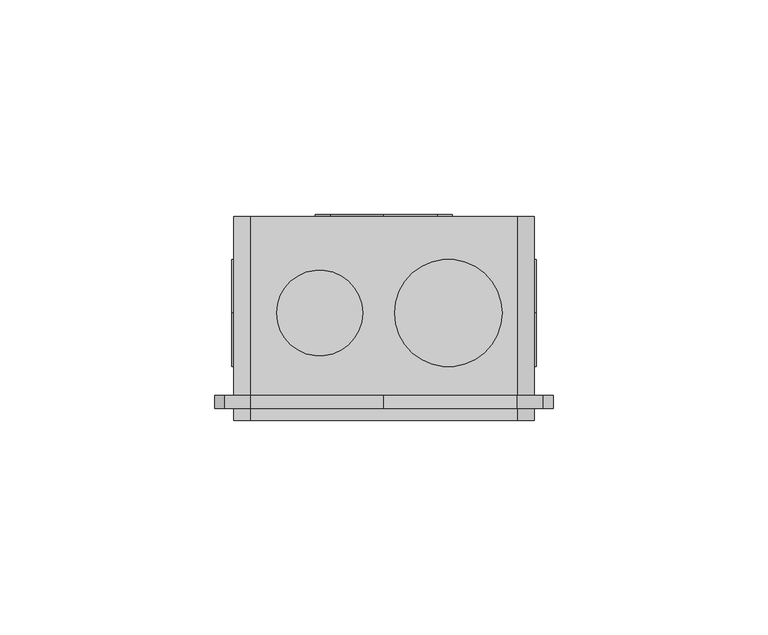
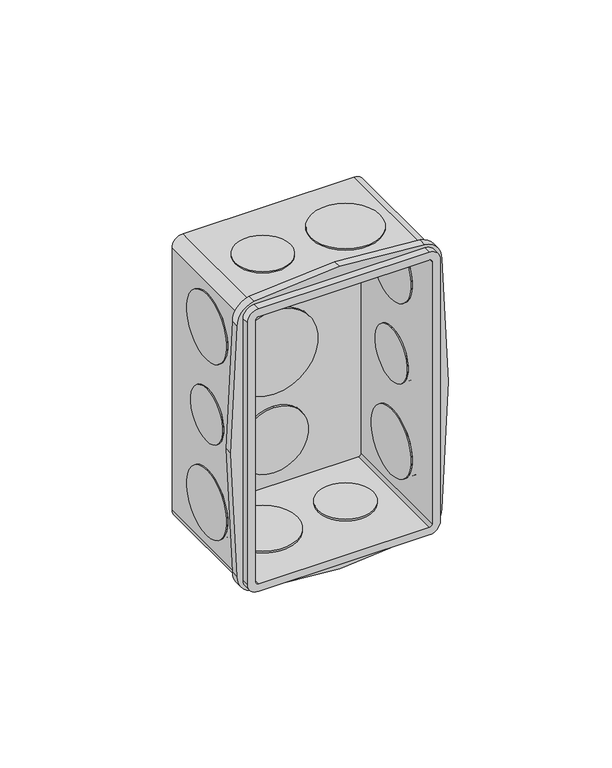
"""IFC4 building model written with IfcOpenShell, lengths in millimetres: cable carrier fitting geometry, PVC Corrugado Amarelo_Caixa de Luz 4x2 : PVC Corrugado Amarelo_Caixa de Luz 4x2."""

from ifc_helpers import new_model, si_unit, point, frame, frame_2d, origin, origin_2d, place, context, project, spatial, polyline, circle_curve, trimmed, segment, composite_curve, outline, extrude, source, transform, mapped, element, save
from ifc_brep_helpers import plane_surface, cylinder_surface, revolved_surface, advanced_brep


def cable_carrier_fitting_5224564e(model_context):
    return source(origin(), model_context, "Body", "SolidModel", [
        extrude(outline(composite_curve([segment(trimmed(circle_curve(frame_2d((33.7286647, 0.0)), 12.5), [point((46.2286647, 0.0))], [point((21.2286647, 0.0))], False, "CARTESIAN"), True, "CONTINUOUS"), segment(trimmed(circle_curve(frame_2d((33.7286647, 0.0)), 12.5), [point((21.2286647, 0.0))], [point((46.2286647, 0.0))], False, "CARTESIAN"), True, "CONTINUOUS")], self_intersect=False)), frame((0.0, 44.010852, 0.0), z_axis=(0.0, 1.0, 0.0), x_axis=(0.0, 0.0, 1.0)), (0.0, 0.0, 1.0), 3.957898),
        extrude(outline(composite_curve([segment(trimmed(circle_curve(frame_2d((-33.7286647, 0.0)), 12.5), [point((-46.2286647, 0.0))], [point((-21.2286647, 0.0))], False, "CARTESIAN"), True, "CONTINUOUS"), segment(trimmed(circle_curve(frame_2d((-33.7286647, 0.0)), 12.5), [point((-21.2286647, 0.0))], [point((-46.2286647, 0.0))], False, "CARTESIAN"), True, "CONTINUOUS")], self_intersect=False)), frame((0.0, 44.010852, 0.0), z_axis=(0.0, 1.0, 0.0), x_axis=(0.0, 0.0, 1.0)), (0.0, 0.0, 1.0), 3.957898),
        extrude(outline(composite_curve([segment(trimmed(circle_curve(origin_2d(), 16.0), [point((16.0, 0.0))], [point((-16.0, 0.0))], False, "CARTESIAN"), True, "CONTINUOUS"), segment(trimmed(circle_curve(origin_2d(), 16.0), [point((-16.0, 0.0))], [point((16.0, 0.0))], False, "CARTESIAN"), True, "CONTINUOUS")], self_intersect=False)), frame((0.0, 44.010852, 0.0), z_axis=(0.0, 1.0, 0.0), x_axis=(0.0, 0.0, 1.0)), (0.0, 0.0, 1.0), 3.957898),
        extrude(outline(composite_curve([segment(trimmed(circle_curve(frame_2d((-15.0, 25.0)), 12.5), [point((-27.5, 25.0))], [point((-2.5, 25.0))], False, "CARTESIAN"), True, "CONTINUOUS"), segment(trimmed(circle_curve(frame_2d((-15.0, 25.0)), 12.5), [point((-2.5, 25.0))], [point((-27.5, 25.0))], False, "CARTESIAN"), True, "CONTINUOUS")], self_intersect=False)), frame((0.0, 0.0, -54.8583527), z_axis=(0.0, 0.0, 1.0), x_axis=(1.0, 0.0, 0.0)), (0.0, 0.0, 1.0), 4.1319333),
        extrude(outline(composite_curve([segment(trimmed(circle_curve(frame_2d((15.0, 25.0)), 10.0), [point((25.0, 25.0))], [point((5.0, 25.0))], False, "CARTESIAN"), True, "CONTINUOUS"), segment(trimmed(circle_curve(frame_2d((15.0, 25.0)), 10.0), [point((5.0, 25.0))], [point((25.0, 25.0))], False, "CARTESIAN"), True, "CONTINUOUS")], self_intersect=False)), frame((0.0, 0.0, -54.8583527), z_axis=(0.0, 0.0, 1.0), x_axis=(1.0, 0.0, 0.0)), (0.0, 0.0, 1.0), 4.1319333),
        advanced_brep(
        [(31.0, 0.0, 54.25), (-31.0, 0.0, 54.25), (-35.0, 0.0, 50.25), (-35.0, 0.0, -50.25), (-31.0, 0.0, -54.25), (31.0, 0.0, -54.25), (35.0, 0.0, -50.25), (35.0, 0.0, 50.25), (-32.0, 0.0, 50.25), (-31.0, 0.0, 51.25), (31.0, 0.0, 51.25), (32.0, 0.0, 50.25), (32.0, 0.0, -50.25), (31.0, 0.0, -51.25), (-31.0, 0.0, -51.25), (-32.0, 0.0, -50.25), (31.0, 47.5, 54.25), (35.0, 47.5, 50.25), (35.0, 47.5, -50.25), (31.0, 47.5, -54.25), (-31.0, 47.5, -54.25), (-35.0, 47.5, -50.25), (-35.0, 47.5, 50.25), (-31.0, 47.5, 54.25), (31.0, 2.7553825, 54.25), (-31.0, 2.7553825, 54.25), (-31.0, 44.5, 54.25), (-31.0, 5.7553825, 54.25), (31.0, 5.7553825, 54.25), (31.0, 44.5, 54.25), (-25.0, 25.0, 54.25), (-5.0, 25.0, 54.25), (27.5, 25.0, 54.25), (2.5, 25.0, 54.25), (-35.0, 2.7553825, 50.25), (-35.0, 44.5, 50.25), (-35.0, 5.7553825, 50.25), (-35.0, 2.7553825, -50.25), (-35.0, 44.5, -50.25), (-35.0, 5.7553825, -50.25), (-35.0, 25.0, 46.2286647), (-35.0, 25.0, 21.2286647), (-35.0, 25.0, -46.2286647), (-35.0, 25.0, -21.2286647), (-35.0, 25.0, -10.0), (-35.0, 25.0, 10.0), (-31.0, 2.7553825, -54.25), (-31.0, 44.5, -54.25), (-31.0, 5.7553825, -54.25), (31.0, 2.7553825, -54.25), (31.0, 44.5, -54.25), (31.0, 5.7553825, -54.25), (35.0, 2.7553825, -50.25), (35.0, 44.5, -50.25), (35.0, 5.7553825, -50.25), (35.0, 2.7553825, 50.25), (35.0, 44.5, 50.25), (35.0, 5.7553825, 50.25), (35.0, 25.0, 21.2286647), (35.0, 25.0, 46.2286647), (35.0, 25.0, -21.2286647), (35.0, 25.0, -46.2286647), (35.0, 25.0, 10.0), (35.0, 25.0, -10.0), (-32.0, 44.5, 50.25), (-31.0, 44.5, 51.25), (31.0, 44.5, 51.25), (-5.0, 25.0, 51.25), (-25.0, 25.0, 51.25), (2.5, 25.0, 51.25), (27.5, 25.0, 51.25), (32.0, 44.5, 50.25), (32.0, 44.5, -50.25), (32.0, 25.0, 46.2286647), (32.0, 25.0, 21.2286647), (32.0, 25.0, -46.2286647), (32.0, 25.0, -21.2286647), (32.0, 25.0, -10.0), (32.0, 25.0, 10.0), (31.0, 44.5, -51.25), (-31.0, 44.5, -51.25), (-32.0, 44.5, -50.25), (-32.0, 25.0, 21.2286647), (-32.0, 25.0, 46.2286647), (-32.0, 25.0, -21.2286647), (-32.0, 25.0, -46.2286647), (-32.0, 25.0, 10.0), (-32.0, 25.0, -10.0), (-37.0968019, 2.7553825, -48.0448371), (-31.0, 2.7553825, -55.5), (0.0, 2.7553825, -58.0165113), (31.0, 2.7553825, -55.5), (37.0968019, 2.7553825, -48.0448371), (39.4526285, 2.7553825, 0.0), (37.0968019, 2.7553825, 48.0448371), (31.0, 2.7553825, 55.5), (0.0, 2.7553825, 58.0165113), (-31.0, 2.7553825, 55.5), (-37.0968019, 2.7553825, 48.0448371), (-39.4526285, 2.7553825, 0.0), (-37.0968019, 5.7553825, -48.0448371), (-39.4526285, 5.7553825, 0.0), (-37.0968019, 5.7553825, 48.0448371), (-31.0, 5.7553825, 55.5), (0.0, 5.7553825, 58.0165113), (31.0, 5.7553825, 55.5), (37.0968019, 5.7553825, 48.0448371), (39.4526285, 5.7553825, 0.0), (37.0968019, 5.7553825, -48.0448371), (31.0, 5.7553825, -55.5), (0.0, 5.7553825, -58.0165113), (-31.0, 5.7553825, -55.5), (-25.0, 25.0, 54.7423305), (-5.0, 25.0, 54.7423305), (27.5, 25.0, 54.7423305), (2.5, 25.0, 54.7423305), (-25.0, 25.0, 50.6103973), (-5.0, 25.0, 50.6103973), (27.5, 25.0, 50.6103973), (2.5, 25.0, 50.6103973), (35.4603476, 25.0, 46.2286647), (35.4603476, 25.0, 21.2286647), (35.4603476, 25.0, -46.2286647), (35.4603476, 25.0, -21.2286647), (35.4603476, 25.0, -10.0), (35.4603476, 25.0, 10.0), (31.5024495, 25.0, 46.2286647), (31.5024495, 25.0, 21.2286647), (31.5024495, 25.0, -46.2286647), (31.5024495, 25.0, -21.2286647), (31.5024495, 25.0, -10.0), (31.5024495, 25.0, 10.0), (-35.4603476, 25.0, 46.2286647), (-35.4603476, 25.0, 21.2286647), (-35.4603476, 25.0, -46.2286647), (-35.4603476, 25.0, -21.2286647), (-35.4603476, 25.0, -10.0), (-35.4603476, 25.0, 10.0), (-31.5024495, 25.0, 46.2286647), (-31.5024495, 25.0, 21.2286647), (-31.5024495, 25.0, -46.2286647), (-31.5024495, 25.0, -21.2286647), (-31.5024495, 25.0, -10.0), (-31.5024495, 25.0, 10.0)],
        [
            (0, 1),
            (1, 2, circle_curve(frame((-31.0, 0.0, 50.25), z_axis=(0.0, -1.0, 0.0), x_axis=(1.0, 0.0, 0.0)), 4.0)),
            (2, 3),
            (3, 4, circle_curve(frame((-31.0, 0.0, -50.25), z_axis=(0.0, -1.0, 0.0), x_axis=(1.0, 0.0, 0.0)), 4.0)),
            (4, 5),
            (5, 6, circle_curve(frame((31.0, 0.0, -50.25), z_axis=(0.0, -1.0, 0.0), x_axis=(1.0, 0.0, 0.0)), 4.0)),
            (6, 7),
            (7, 0, circle_curve(frame((31.0, 0.0, 50.25), z_axis=(0.0, -1.0, 0.0), x_axis=(1.0, 0.0, 0.0)), 4.0)),
            (8, 9, circle_curve(frame((-31.0, 0.0, 50.25), z_axis=(0.0, 1.0, 0.0), x_axis=(1.0, 0.0, 0.0)), 1.0)),
            (9, 10),
            (10, 11, circle_curve(frame((31.0, 0.0, 50.25), z_axis=(0.0, 1.0, 0.0), x_axis=(1.0, 0.0, 0.0)), 1.0)),
            (11, 12),
            (12, 13, circle_curve(frame((31.0, 0.0, -50.25), z_axis=(0.0, 1.0, 0.0), x_axis=(1.0, 0.0, 0.0)), 1.0)),
            (13, 14),
            (14, 15, circle_curve(frame((-31.0, 0.0, -50.25), z_axis=(0.0, 1.0, 0.0), x_axis=(1.0, 0.0, 0.0)), 1.0)),
            (15, 8),
            (16, 17, circle_curve(frame((31.0, 47.5, 50.25), z_axis=(0.0, 1.0, 0.0), x_axis=(1.0, 0.0, 0.0)), 4.0)),
            (17, 18),
            (18, 19, circle_curve(frame((31.0, 47.5, -50.25), z_axis=(0.0, 1.0, 0.0), x_axis=(1.0, 0.0, 0.0)), 4.0)),
            (19, 20),
            (20, 21, circle_curve(frame((-31.0, 47.5, -50.25), z_axis=(0.0, 1.0, 0.0), x_axis=(1.0, 0.0, 0.0)), 4.0)),
            (21, 22),
            (22, 23, circle_curve(frame((-31.0, 47.5, 50.25), z_axis=(0.0, 1.0, 0.0), x_axis=(1.0, 0.0, 0.0)), 4.0)),
            (23, 16),
            (0, 24),
            (24, 25),
            (25, 1),
            (23, 26),
            (26, 27),
            (27, 28),
            (28, 29),
            (29, 16),
            (30, 31, circle_curve(frame((-15.0, 25.0, 54.25), z_axis=(0.0, 0.0, -1.0), x_axis=(1.0, 0.0, 0.0)), 10.0)),
            (31, 30, circle_curve(frame((-15.0, 25.0, 54.25), z_axis=(0.0, 0.0, -1.0), x_axis=(1.0, 0.0, 0.0)), 10.0)),
            (32, 33, circle_curve(frame((15.0, 25.0, 54.25), z_axis=(0.0, 0.0, -1.0), x_axis=(-1.0, 0.0, 0.0)), 12.5)),
            (33, 32, circle_curve(frame((15.0, 25.0, 54.25), z_axis=(0.0, 0.0, -1.0), x_axis=(-1.0, 0.0, 0.0)), 12.5)),
            (25, 34, circle_curve(frame((-31.0, 2.7553825, 50.25), z_axis=(0.0, -1.0, 0.0), x_axis=(1.0, 0.0, 0.0)), 4.0)),
            (34, 2),
            (22, 35),
            (35, 36),
            (36, 27, circle_curve(frame((-31.0, 5.7553825, 50.25), z_axis=(0.0, 1.0, 0.0), x_axis=(1.0, 0.0, 0.0)), 4.0)),
            (34, 37),
            (37, 3),
            (21, 38),
            (38, 39),
            (39, 36),
            (40, 41, circle_curve(frame((-35.0, 25.0, 33.7286647), z_axis=(1.0, 0.0, 0.0), x_axis=(0.0, 0.0, -1.0)), 12.5)),
            (41, 40, circle_curve(frame((-35.0, 25.0, 33.7286647), z_axis=(1.0, 0.0, 0.0), x_axis=(0.0, 0.0, -1.0)), 12.5)),
            (42, 43, circle_curve(frame((-35.0, 25.0, -33.7286647), z_axis=(1.0, 0.0, 0.0), x_axis=(0.0, 0.0, 1.0)), 12.5)),
            (43, 42, circle_curve(frame((-35.0, 25.0, -33.7286647), z_axis=(1.0, 0.0, 0.0), x_axis=(0.0, 0.0, 1.0)), 12.5)),
            (44, 45, circle_curve(frame((-35.0, 25.0, 0.0), z_axis=(1.0, 0.0, 0.0), x_axis=(0.0, 0.0, 1.0)), 10.0)),
            (45, 44, circle_curve(frame((-35.0, 25.0, 0.0), z_axis=(1.0, 0.0, 0.0), x_axis=(0.0, 0.0, 1.0)), 10.0)),
            (37, 46, circle_curve(frame((-31.0, 2.7553825, -50.25), z_axis=(0.0, -1.0, 0.0), x_axis=(1.0, 0.0, 0.0)), 4.0)),
            (46, 4),
            (20, 47),
            (47, 48),
            (48, 39, circle_curve(frame((-31.0, 5.7553825, -50.25), z_axis=(0.0, 1.0, 0.0), x_axis=(1.0, 0.0, 0.0)), 4.0)),
            (46, 49),
            (49, 5),
            (19, 50),
            (50, 51),
            (51, 48),
            (49, 52, circle_curve(frame((31.0, 2.7553825, -50.25), z_axis=(0.0, -1.0, 0.0), x_axis=(1.0, 0.0, 0.0)), 4.0)),
            (52, 6),
            (18, 53),
            (53, 54),
            (54, 51, circle_curve(frame((31.0, 5.7553825, -50.25), z_axis=(0.0, 1.0, 0.0), x_axis=(1.0, 0.0, 0.0)), 4.0)),
            (52, 55),
            (55, 7),
            (17, 56),
            (56, 57),
            (57, 54),
            (58, 59, circle_curve(frame((35.0, 25.0, 33.7286647), z_axis=(-1.0, 0.0, 0.0), x_axis=(0.0, 0.0, -1.0)), 12.5)),
            (59, 58, circle_curve(frame((35.0, 25.0, 33.7286647), z_axis=(-1.0, 0.0, 0.0), x_axis=(0.0, 0.0, -1.0)), 12.5)),
            (60, 61, circle_curve(frame((35.0, 25.0, -33.7286647), z_axis=(-1.0, 0.0, 0.0), x_axis=(0.0, 0.0, 1.0)), 12.5)),
            (61, 60, circle_curve(frame((35.0, 25.0, -33.7286647), z_axis=(-1.0, 0.0, 0.0), x_axis=(0.0, 0.0, 1.0)), 12.5)),
            (62, 63, circle_curve(frame((35.0, 25.0, 0.0), z_axis=(-1.0, 0.0, 0.0), x_axis=(0.0, 0.0, 1.0)), 10.0)),
            (63, 62, circle_curve(frame((35.0, 25.0, 0.0), z_axis=(-1.0, 0.0, 0.0), x_axis=(0.0, 0.0, 1.0)), 10.0)),
            (55, 24, circle_curve(frame((31.0, 2.7553825, 50.25), z_axis=(0.0, -1.0, 0.0), x_axis=(1.0, 0.0, 0.0)), 4.0)),
            (28, 57, circle_curve(frame((31.0, 5.7553825, 50.25), z_axis=(0.0, 1.0, 0.0), x_axis=(1.0, 0.0, 0.0)), 4.0)),
            (8, 64),
            (64, 65, circle_curve(frame((-31.0, 44.5, 50.25), z_axis=(0.0, 1.0, 0.0), x_axis=(1.0, 0.0, 0.0)), 1.0)),
            (65, 9),
            (65, 66),
            (66, 10),
            (67, 68, circle_curve(frame((-15.0, 25.0, 51.25), z_axis=(0.0, 0.0, 1.0), x_axis=(1.0, 0.0, 0.0)), 10.0)),
            (68, 67, circle_curve(frame((-15.0, 25.0, 51.25), z_axis=(0.0, 0.0, 1.0), x_axis=(1.0, 0.0, 0.0)), 10.0)),
            (69, 70, circle_curve(frame((15.0, 25.0, 51.25), z_axis=(0.0, 0.0, 1.0), x_axis=(-1.0, 0.0, 0.0)), 12.5)),
            (70, 69, circle_curve(frame((15.0, 25.0, 51.25), z_axis=(0.0, 0.0, 1.0), x_axis=(-1.0, 0.0, 0.0)), 12.5)),
            (66, 71, circle_curve(frame((31.0, 44.5, 50.25), z_axis=(0.0, 1.0, 0.0), x_axis=(1.0, 0.0, 0.0)), 1.0)),
            (71, 11),
            (71, 72),
            (72, 12),
            (73, 74, circle_curve(frame((32.0, 25.0, 33.7286647), z_axis=(1.0, 0.0, 0.0), x_axis=(0.0, 0.0, -1.0)), 12.5)),
            (74, 73, circle_curve(frame((32.0, 25.0, 33.7286647), z_axis=(1.0, 0.0, 0.0), x_axis=(0.0, 0.0, -1.0)), 12.5)),
            (75, 76, circle_curve(frame((32.0, 25.0, -33.7286647), z_axis=(1.0, 0.0, 0.0), x_axis=(0.0, 0.0, 1.0)), 12.5)),
            (76, 75, circle_curve(frame((32.0, 25.0, -33.7286647), z_axis=(1.0, 0.0, 0.0), x_axis=(0.0, 0.0, 1.0)), 12.5)),
            (77, 78, circle_curve(frame((32.0, 25.0, 0.0), z_axis=(1.0, 0.0, 0.0), x_axis=(0.0, 0.0, 1.0)), 10.0)),
            (78, 77, circle_curve(frame((32.0, 25.0, 0.0), z_axis=(1.0, 0.0, 0.0), x_axis=(0.0, 0.0, 1.0)), 10.0)),
            (72, 79, circle_curve(frame((31.0, 44.5, -50.25), z_axis=(0.0, 1.0, 0.0), x_axis=(1.0, 0.0, 0.0)), 1.0)),
            (79, 13),
            (79, 80),
            (80, 14),
            (80, 81, circle_curve(frame((-31.0, 44.5, -50.25), z_axis=(0.0, 1.0, 0.0), x_axis=(1.0, 0.0, 0.0)), 1.0)),
            (81, 15),
            (81, 64),
            (82, 83, circle_curve(frame((-32.0, 25.0, 33.7286647), z_axis=(-1.0, 0.0, 0.0), x_axis=(0.0, 0.0, -1.0)), 12.5)),
            (83, 82, circle_curve(frame((-32.0, 25.0, 33.7286647), z_axis=(-1.0, 0.0, 0.0), x_axis=(0.0, 0.0, -1.0)), 12.5)),
            (84, 85, circle_curve(frame((-32.0, 25.0, -33.7286647), z_axis=(-1.0, 0.0, 0.0), x_axis=(0.0, 0.0, 1.0)), 12.5)),
            (85, 84, circle_curve(frame((-32.0, 25.0, -33.7286647), z_axis=(-1.0, 0.0, 0.0), x_axis=(0.0, 0.0, 1.0)), 12.5)),
            (86, 87, circle_curve(frame((-32.0, 25.0, 0.0), z_axis=(-1.0, 0.0, 0.0), x_axis=(0.0, 0.0, 1.0)), 10.0)),
            (87, 86, circle_curve(frame((-32.0, 25.0, 0.0), z_axis=(-1.0, 0.0, 0.0), x_axis=(0.0, 0.0, 1.0)), 10.0)),
            (88, 89, circle_curve(frame((-29.8265183, 2.7553825, -48.3197801), z_axis=(0.0, -1.0, 0.0), x_axis=(1.0, 0.0, 0.0)), 7.2754806)),
            (89, 90, circle_curve(frame((0.0, 2.7553825, 134.180685), z_axis=(0.0, -1.0, 0.0), x_axis=(1.0, 0.0, 0.0)), 192.1971963)),
            (90, 91, circle_curve(frame((0.0, 2.7553825, 134.180685), z_axis=(0.0, -1.0, 0.0), x_axis=(-1.0, 0.0, 0.0)), 192.1971963)),
            (91, 92, circle_curve(frame((29.8265183, 2.7553825, -48.3197801), z_axis=(0.0, -1.0, 0.0), x_axis=(-1.0, 0.0, 0.0)), 7.2754806)),
            (92, 93, circle_curve(frame((-451.639599, 2.7553825, 0.0), z_axis=(0.0, -1.0, 0.0), x_axis=(-1.0, 0.0, 0.0)), 491.0922276)),
            (93, 94, circle_curve(frame((-451.639599, 2.7553825, 0.0), z_axis=(0.0, -1.0, 0.0), x_axis=(-1.0, 0.0, 0.0)), 491.0922276)),
            (94, 95, circle_curve(frame((29.8265183, 2.7553825, 48.3197801), z_axis=(0.0, -1.0, 0.0), x_axis=(-1.0, 0.0, 0.0)), 7.2754806)),
            (95, 96, circle_curve(frame((0.0, 2.7553825, -134.180685), z_axis=(0.0, -1.0, 0.0), x_axis=(-1.0, 0.0, 0.0)), 192.1971963)),
            (96, 97, circle_curve(frame((0.0, 2.7553825, -134.180685), z_axis=(0.0, -1.0, 0.0), x_axis=(1.0, 0.0, 0.0)), 192.1971963)),
            (97, 98, circle_curve(frame((-29.8265183, 2.7553825, 48.3197801), z_axis=(0.0, -1.0, 0.0), x_axis=(1.0, 0.0, 0.0)), 7.2754806)),
            (98, 99, circle_curve(frame((451.639599, 2.7553825, 0.0), z_axis=(0.0, -1.0, 0.0), x_axis=(1.0, 0.0, 0.0)), 491.0922276)),
            (99, 88, circle_curve(frame((451.639599, 2.7553825, 0.0), z_axis=(0.0, -1.0, 0.0), x_axis=(1.0, 0.0, 0.0)), 491.0922276)),
            (100, 101, circle_curve(frame((451.639599, 5.7553825, 0.0), z_axis=(0.0, 1.0, 0.0), x_axis=(1.0, 0.0, 0.0)), 491.0922276)),
            (101, 102, circle_curve(frame((451.639599, 5.7553825, 0.0), z_axis=(0.0, 1.0, 0.0), x_axis=(1.0, 0.0, 0.0)), 491.0922276)),
            (102, 103, circle_curve(frame((-29.8265183, 5.7553825, 48.3197801), z_axis=(0.0, 1.0, 0.0), x_axis=(1.0, 0.0, 0.0)), 7.2754806)),
            (103, 104, circle_curve(frame((0.0, 5.7553825, -134.180685), z_axis=(0.0, 1.0, 0.0), x_axis=(1.0, 0.0, 0.0)), 192.1971963)),
            (104, 105, circle_curve(frame((0.0, 5.7553825, -134.180685), z_axis=(0.0, 1.0, 0.0), x_axis=(-1.0, 0.0, 0.0)), 192.1971963)),
            (105, 106, circle_curve(frame((29.8265183, 5.7553825, 48.3197801), z_axis=(0.0, 1.0, 0.0), x_axis=(-1.0, 0.0, 0.0)), 7.2754806)),
            (106, 107, circle_curve(frame((-451.639599, 5.7553825, 0.0), z_axis=(0.0, 1.0, 0.0), x_axis=(-1.0, 0.0, 0.0)), 491.0922276)),
            (107, 108, circle_curve(frame((-451.639599, 5.7553825, 0.0), z_axis=(0.0, 1.0, 0.0), x_axis=(-1.0, 0.0, 0.0)), 491.0922276)),
            (108, 109, circle_curve(frame((29.8265183, 5.7553825, -48.3197801), z_axis=(0.0, 1.0, 0.0), x_axis=(-1.0, 0.0, 0.0)), 7.2754806)),
            (109, 110, circle_curve(frame((0.0, 5.7553825, 134.180685), z_axis=(0.0, 1.0, 0.0), x_axis=(-1.0, 0.0, 0.0)), 192.1971963)),
            (110, 111, circle_curve(frame((0.0, 5.7553825, 134.180685), z_axis=(0.0, 1.0, 0.0), x_axis=(1.0, 0.0, 0.0)), 192.1971963)),
            (111, 100, circle_curve(frame((-29.8265183, 5.7553825, -48.3197801), z_axis=(0.0, 1.0, 0.0), x_axis=(1.0, 0.0, 0.0)), 7.2754806)),
            (89, 111),
            (110, 90),
            (99, 101),
            (100, 88),
            (109, 91),
            (108, 92),
            (107, 93),
            (106, 94),
            (105, 95),
            (104, 96),
            (103, 97),
            (102, 98),
            (112, 113, circle_curve(frame((-15.0, 25.0, 54.7423305), z_axis=(0.0, 0.0, 1.0), x_axis=(1.0, 0.0, 0.0)), 10.0)),
            (113, 112, circle_curve(frame((-15.0, 25.0, 54.7423305), z_axis=(0.0, 0.0, 1.0), x_axis=(1.0, 0.0, 0.0)), 10.0)),
            (114, 115, circle_curve(frame((15.0, 25.0, 54.7423305), z_axis=(0.0, 0.0, 1.0), x_axis=(-1.0, 0.0, 0.0)), 12.5)),
            (115, 114, circle_curve(frame((15.0, 25.0, 54.7423305), z_axis=(0.0, 0.0, 1.0), x_axis=(-1.0, 0.0, 0.0)), 12.5)),
            (116, 117, circle_curve(frame((-15.0, 25.0, 50.6103973), z_axis=(0.0, 0.0, -1.0), x_axis=(1.0, 0.0, 0.0)), 10.0)),
            (117, 116, circle_curve(frame((-15.0, 25.0, 50.6103973), z_axis=(0.0, 0.0, -1.0), x_axis=(1.0, 0.0, 0.0)), 10.0)),
            (118, 119, circle_curve(frame((15.0, 25.0, 50.6103973), z_axis=(0.0, 0.0, -1.0), x_axis=(-1.0, 0.0, 0.0)), 12.5)),
            (119, 118, circle_curve(frame((15.0, 25.0, 50.6103973), z_axis=(0.0, 0.0, -1.0), x_axis=(-1.0, 0.0, 0.0)), 12.5)),
            (113, 31),
            (30, 112),
            (116, 68),
            (67, 117),
            (115, 33),
            (32, 114),
            (118, 70),
            (69, 119),
            (120, 121, circle_curve(frame((35.4603476, 25.0, 33.7286647), z_axis=(1.0, 0.0, 0.0), x_axis=(0.0, 0.0, -1.0)), 12.5)),
            (121, 120, circle_curve(frame((35.4603476, 25.0, 33.7286647), z_axis=(1.0, 0.0, 0.0), x_axis=(0.0, 0.0, -1.0)), 12.5)),
            (122, 123, circle_curve(frame((35.4603476, 25.0, -33.7286647), z_axis=(1.0, 0.0, 0.0), x_axis=(0.0, 0.0, 1.0)), 12.5)),
            (123, 122, circle_curve(frame((35.4603476, 25.0, -33.7286647), z_axis=(1.0, 0.0, 0.0), x_axis=(0.0, 0.0, 1.0)), 12.5)),
            (124, 125, circle_curve(frame((35.4603476, 25.0, 0.0), z_axis=(1.0, 0.0, 0.0), x_axis=(0.0, 0.0, 1.0)), 10.0)),
            (125, 124, circle_curve(frame((35.4603476, 25.0, 0.0), z_axis=(1.0, 0.0, 0.0), x_axis=(0.0, 0.0, 1.0)), 10.0)),
            (126, 127, circle_curve(frame((31.5024495, 25.0, 33.7286647), z_axis=(-1.0, 0.0, 0.0), x_axis=(0.0, 0.0, -1.0)), 12.5)),
            (127, 126, circle_curve(frame((31.5024495, 25.0, 33.7286647), z_axis=(-1.0, 0.0, 0.0), x_axis=(0.0, 0.0, -1.0)), 12.5)),
            (128, 129, circle_curve(frame((31.5024495, 25.0, -33.7286647), z_axis=(-1.0, 0.0, 0.0), x_axis=(0.0, 0.0, 1.0)), 12.5)),
            (129, 128, circle_curve(frame((31.5024495, 25.0, -33.7286647), z_axis=(-1.0, 0.0, 0.0), x_axis=(0.0, 0.0, 1.0)), 12.5)),
            (130, 131, circle_curve(frame((31.5024495, 25.0, 0.0), z_axis=(-1.0, 0.0, 0.0), x_axis=(0.0, 0.0, 1.0)), 10.0)),
            (131, 130, circle_curve(frame((31.5024495, 25.0, 0.0), z_axis=(-1.0, 0.0, 0.0), x_axis=(0.0, 0.0, 1.0)), 10.0)),
            (120, 59),
            (58, 121),
            (127, 74),
            (73, 126),
            (122, 61),
            (60, 123),
            (129, 76),
            (75, 128),
            (124, 63),
            (62, 125),
            (131, 78),
            (77, 130),
            (132, 133, circle_curve(frame((-35.4603476, 25.0, 33.7286647), z_axis=(-1.0, 0.0, 0.0), x_axis=(0.0, 0.0, -1.0)), 12.5)),
            (133, 132, circle_curve(frame((-35.4603476, 25.0, 33.7286647), z_axis=(-1.0, 0.0, 0.0), x_axis=(0.0, 0.0, -1.0)), 12.5)),
            (134, 135, circle_curve(frame((-35.4603476, 25.0, -33.7286647), z_axis=(-1.0, 0.0, 0.0), x_axis=(0.0, 0.0, 1.0)), 12.5)),
            (135, 134, circle_curve(frame((-35.4603476, 25.0, -33.7286647), z_axis=(-1.0, 0.0, 0.0), x_axis=(0.0, 0.0, 1.0)), 12.5)),
            (136, 137, circle_curve(frame((-35.4603476, 25.0, 0.0), z_axis=(-1.0, 0.0, 0.0), x_axis=(0.0, 0.0, 1.0)), 10.0)),
            (137, 136, circle_curve(frame((-35.4603476, 25.0, 0.0), z_axis=(-1.0, 0.0, 0.0), x_axis=(0.0, 0.0, 1.0)), 10.0)),
            (138, 139, circle_curve(frame((-31.5024495, 25.0, 33.7286647), z_axis=(1.0, 0.0, 0.0), x_axis=(0.0, 0.0, -1.0)), 12.5)),
            (139, 138, circle_curve(frame((-31.5024495, 25.0, 33.7286647), z_axis=(1.0, 0.0, 0.0), x_axis=(0.0, 0.0, -1.0)), 12.5)),
            (140, 141, circle_curve(frame((-31.5024495, 25.0, -33.7286647), z_axis=(1.0, 0.0, 0.0), x_axis=(0.0, 0.0, 1.0)), 12.5)),
            (141, 140, circle_curve(frame((-31.5024495, 25.0, -33.7286647), z_axis=(1.0, 0.0, 0.0), x_axis=(0.0, 0.0, 1.0)), 12.5)),
            (142, 143, circle_curve(frame((-31.5024495, 25.0, 0.0), z_axis=(1.0, 0.0, 0.0), x_axis=(0.0, 0.0, 1.0)), 10.0)),
            (143, 142, circle_curve(frame((-31.5024495, 25.0, 0.0), z_axis=(1.0, 0.0, 0.0), x_axis=(0.0, 0.0, 1.0)), 10.0)),
            (133, 41),
            (40, 132),
            (138, 83),
            (82, 139),
            (135, 43),
            (42, 134),
            (140, 85),
            (84, 141),
            (137, 45),
            (44, 136),
            (142, 87),
            (86, 143),
        ],
        [
            plane_surface(frame((-40.0, 0.0, 54.25), z_axis=(0.0, -1.0, 0.0), x_axis=(-1.0, 0.0, 0.0))),
            plane_surface(frame((-40.0, 47.5, 54.25), z_axis=(0.0, 1.0, 0.0), x_axis=(1.0, 0.0, 0.0))),
            plane_surface(frame((31.0, 0.0, 54.25), z_axis=(0.0, 0.0, 1.0), x_axis=(0.0, 1.0, 0.0))),
            cylinder_surface(frame((-31.0, 47.5, 50.25), z_axis=(0.0, -1.0, 0.0), x_axis=(1.0, 0.0, 0.0)), 4.0),
            plane_surface(frame((-35.0, 0.0, 50.25), z_axis=(-1.0, 0.0, 0.0), x_axis=(0.0, 1.0, 0.0))),
            cylinder_surface(frame((-31.0, 47.5, -50.25), z_axis=(0.0, -1.0, 0.0), x_axis=(1.0, 0.0, 0.0)), 4.0),
            plane_surface(frame((-31.0, 0.0, -54.25), z_axis=(0.0, 0.0, -1.0), x_axis=(0.0, 1.0, 0.0))),
            cylinder_surface(frame((31.0, 47.5, -50.25), z_axis=(0.0, -1.0, 0.0), x_axis=(1.0, 0.0, 0.0)), 4.0),
            plane_surface(frame((35.0, 0.0, -50.25), z_axis=(1.0, 0.0, 0.0), x_axis=(0.0, 1.0, 0.0))),
            cylinder_surface(frame((31.0, 47.5, 50.25), z_axis=(0.0, -1.0, 0.0), x_axis=(1.0, 0.0, 0.0)), 4.0),
            revolved_surface(polyline([(-30.0, 44.5, 50.25), (-30.0, 0.0, 50.25)]), (-31.0, 47.5, 50.25), (0.0, 1.0, 0.0)),
            plane_surface(frame((-31.0, 0.0, 51.25), z_axis=(0.0, 0.0, -1.0), x_axis=(0.0, 1.0, 0.0))),
            revolved_surface(polyline([(32.0, 44.5, 50.25), (32.0, 0.0, 50.25)]), (31.0, 47.5, 50.25), (0.0, 1.0, 0.0)),
            plane_surface(frame((32.0, 0.0, 50.25), z_axis=(-1.0, 0.0, 0.0), x_axis=(0.0, 1.0, 0.0))),
            revolved_surface(polyline([(32.0, 44.5, -50.25), (32.0, 0.0, -50.25)]), (31.0, 47.5, -50.25), (0.0, 1.0, 0.0)),
            plane_surface(frame((31.0, 0.0, -51.25), z_axis=(0.0, 0.0, 1.0), x_axis=(0.0, 1.0, 0.0))),
            revolved_surface(polyline([(-30.0, 44.5, -50.25), (-30.0, 0.0, -50.25)]), (-31.0, 47.5, -50.25), (0.0, 1.0, 0.0)),
            plane_surface(frame((-32.0, 0.0, -50.25), z_axis=(1.0, 0.0, 0.0), x_axis=(0.0, 1.0, 0.0))),
            plane_surface(frame((-22.5510377, 2.7553825, -48.3197801), z_axis=(0.0, -1.0, 0.0), x_axis=(0.0, 0.0, 1.0))),
            plane_surface(frame((-22.5510377, 5.7553825, -48.3197801), z_axis=(0.0, 1.0, 0.0), x_axis=(0.0, 0.0, -1.0))),
            cylinder_surface(frame((0.0, 5.7553825, 134.180685), z_axis=(0.0, -1.0, 0.0), x_axis=(1.0, 0.0, 0.0)), 192.1971963),
            cylinder_surface(frame((451.639599, 5.7553825, 0.0), z_axis=(0.0, -1.0, 0.0), x_axis=(1.0, 0.0, 0.0)), 491.0922276),
            cylinder_surface(frame((-29.8265183, 5.7553825, -48.3197801), z_axis=(0.0, -1.0, 0.0), x_axis=(1.0, 0.0, 0.0)), 7.2754806),
            cylinder_surface(frame((0.0, 5.7553825, 134.180685), z_axis=(0.0, -1.0, 0.0), x_axis=(-1.0, 0.0, 0.0)), 192.1971963),
            cylinder_surface(frame((29.8265183, 5.7553825, -48.3197801), z_axis=(0.0, -1.0, 0.0), x_axis=(-1.0, 0.0, 0.0)), 7.2754806),
            cylinder_surface(frame((-451.639599, 5.7553825, 0.0), z_axis=(0.0, -1.0, 0.0), x_axis=(-1.0, 0.0, 0.0)), 491.0922276),
            cylinder_surface(frame((29.8265183, 5.7553825, 48.3197801), z_axis=(0.0, -1.0, 0.0), x_axis=(-1.0, 0.0, 0.0)), 7.2754806),
            cylinder_surface(frame((0.0, 5.7553825, -134.180685), z_axis=(0.0, -1.0, 0.0), x_axis=(-1.0, 0.0, 0.0)), 192.1971963),
            cylinder_surface(frame((0.0, 5.7553825, -134.180685), z_axis=(0.0, -1.0, 0.0), x_axis=(1.0, 0.0, 0.0)), 192.1971963),
            cylinder_surface(frame((-29.8265183, 5.7553825, 48.3197801), z_axis=(0.0, -1.0, 0.0), x_axis=(1.0, 0.0, 0.0)), 7.2754806),
            plane_surface(frame((-35.0, 44.5, 50.25), z_axis=(0.0, -1.0, 0.0), x_axis=(0.0, 0.0, -1.0))),
            plane_surface(frame((-5.0, 25.0, 54.7423305), z_axis=(0.0, 0.0, 1.0), x_axis=(0.0, 1.0, 0.0))),
            plane_surface(frame((-5.0, 25.0, 50.6103973), z_axis=(0.0, 0.0, -1.0), x_axis=(0.0, -1.0, 0.0))),
            cylinder_surface(frame((-15.0, 25.0, 50.6103973), z_axis=(0.0, 0.0, 1.0), x_axis=(1.0, 0.0, 0.0)), 10.0),
            cylinder_surface(frame((15.0, 25.0, 0.0), z_axis=(0.0, 0.0, 1.0), x_axis=(-1.0, 0.0, 0.0)), 12.5),
            plane_surface(frame((35.4603476, 25.0, 21.2286647), z_axis=(1.0, 0.0, 0.0), x_axis=(0.0, 1.0, 0.0))),
            plane_surface(frame((31.5024495, 25.0, 21.2286647), z_axis=(-1.0, 0.0, 0.0), x_axis=(0.0, -1.0, 0.0))),
            cylinder_surface(frame((31.5024495, 25.0, 33.7286647), z_axis=(1.0, 0.0, 0.0), x_axis=(0.0, 0.0, -1.0)), 12.5),
            cylinder_surface(frame((0.0, 25.0, -33.7286647), z_axis=(1.0, 0.0, 0.0), x_axis=(0.0, 0.0, 1.0)), 12.5),
            cylinder_surface(frame((0.0, 25.0, 0.0), z_axis=(1.0, 0.0, 0.0), x_axis=(0.0, 0.0, 1.0)), 10.0),
            plane_surface(frame((-35.4603476, 25.0, 21.2286647), z_axis=(-1.0, 0.0, 0.0), x_axis=(0.0, -1.0, 0.0))),
            plane_surface(frame((-31.5024495, 25.0, 21.2286647), z_axis=(1.0, 0.0, 0.0), x_axis=(0.0, 1.0, 0.0))),
            cylinder_surface(frame((-31.5024495, 25.0, 33.7286647), z_axis=(-1.0, 0.0, 0.0), x_axis=(0.0, 0.0, -1.0)), 12.5),
            cylinder_surface(frame((0.0, 25.0, -33.7286647), z_axis=(-1.0, 0.0, 0.0), x_axis=(0.0, 0.0, 1.0)), 12.5),
            cylinder_surface(frame((0.0, 25.0, 0.0), z_axis=(-1.0, 0.0, 0.0), x_axis=(0.0, 0.0, 1.0)), 10.0),
        ],
        [
            (0, [[1, 2, 3, 4, 5, 6, 7, 8], [9, 10, 11, 12, 13, 14, 15, 16]]),
            (1, [[17, 18, 19, 20, 21, 22, 23, 24]]),
            (2, [[-1, 25, 26, 27]]),
            (2, [[-24, 28, 29, 30, 31, 32], [33, 34], [35, 36]]),
            (3, [[-2, -27, 37, 38]]),
            (3, [[-23, 39, 40, 41, -29, -28]]),
            (4, [[-3, -38, 42, 43]]),
            (4, [[-22, 44, 45, 46, -40, -39], [47, 48], [49, 50], [51, 52]]),
            (5, [[-4, -43, 53, 54]]),
            (5, [[-21, 55, 56, 57, -45, -44]]),
            (6, [[-5, -54, 58, 59]]),
            (6, [[-20, 60, 61, 62, -56, -55]]),
            (7, [[-6, -59, 63, 64]]),
            (7, [[-19, 65, 66, 67, -61, -60]]),
            (8, [[-7, -64, 68, 69]]),
            (8, [[-18, 70, 71, 72, -66, -65], [73, 74], [75, 76], [77, 78]]),
            (9, [[-8, -69, 79, -25]]),
            (9, [[-17, -32, -31, 80, -71, -70]]),
            (10, [[-9, 81, 82, 83]]),
            (11, [[-10, -83, 84, 85], [86, 87], [88, 89]]),
            (12, [[-11, -85, 90, 91]]),
            (13, [[-12, -91, 92, 93], [94, 95], [96, 97], [98, 99]]),
            (14, [[-13, -93, 100, 101]]),
            (15, [[-14, -101, 102, 103]]),
            (16, [[-15, -103, 104, 105]]),
            (17, [[-16, -105, 106, -81], [107, 108], [109, 110], [111, 112]]),
            (18, [[113, 114, 115, 116, 117, 118, 119, 120, 121, 122, 123, 124], [-26, -79, -68, -63, -58, -53, -42, -37]]),
            (19, [[125, 126, 127, 128, 129, 130, 131, 132, 133, 134, 135, 136], [-30, -41, -46, -57, -62, -67, -72, -80]]),
            (20, [[-114, 137, -135, 138]]),
            (21, [[-124, 139, -125, 140]]),
            (22, [[-113, -140, -136, -137]]),
            (23, [[-115, -138, -134, 141]]),
            (24, [[-116, -141, -133, 142]]),
            (25, [[-117, -142, -132, 143]]),
            (25, [[-118, -143, -131, 144]]),
            (26, [[-119, -144, -130, 145]]),
            (27, [[-120, -145, -129, 146]]),
            (28, [[-121, -146, -128, 147]]),
            (29, [[-122, -147, -127, 148]]),
            (21, [[-123, -148, -126, -139]]),
            (30, [[-82, -106, -104, -102, -100, -92, -90, -84]]),
            (31, [[149, 150]]),
            (31, [[151, 152]]),
            (32, [[153, 154]]),
            (32, [[155, 156]]),
            (33, [[-150, 157, -33, 158]]),
            (33, [[-153, 159, -86, 160]]),
            (33, [[-149, -158, -34, -157]]),
            (33, [[-154, -160, -87, -159]]),
            (34, [[-152, 161, -35, 162]]),
            (34, [[-155, 163, -88, 164]]),
            (34, [[-151, -162, -36, -161]]),
            (34, [[-156, -164, -89, -163]]),
            (35, [[165, 166]]),
            (35, [[167, 168]]),
            (35, [[169, 170]]),
            (36, [[171, 172]]),
            (36, [[173, 174]]),
            (36, [[175, 176]]),
            (37, [[-165, 177, -73, 178]]),
            (37, [[-172, 179, -94, 180]]),
            (37, [[-166, -178, -74, -177]]),
            (37, [[-171, -180, -95, -179]]),
            (38, [[-167, 181, -75, 182]]),
            (38, [[-174, 183, -96, 184]]),
            (38, [[-168, -182, -76, -181]]),
            (38, [[-173, -184, -97, -183]]),
            (39, [[-169, 185, -77, 186]]),
            (39, [[-176, 187, -98, 188]]),
            (39, [[-170, -186, -78, -185]]),
            (39, [[-175, -188, -99, -187]]),
            (40, [[189, 190]]),
            (40, [[191, 192]]),
            (40, [[193, 194]]),
            (41, [[195, 196]]),
            (41, [[197, 198]]),
            (41, [[199, 200]]),
            (42, [[-190, 201, -47, 202]]),
            (42, [[-195, 203, -107, 204]]),
            (42, [[-189, -202, -48, -201]]),
            (42, [[-196, -204, -108, -203]]),
            (43, [[-192, 205, -49, 206]]),
            (43, [[-197, 207, -109, 208]]),
            (43, [[-191, -206, -50, -205]]),
            (43, [[-198, -208, -110, -207]]),
            (44, [[-194, 209, -51, 210]]),
            (44, [[-199, 211, -111, 212]]),
            (44, [[-193, -210, -52, -209]]),
            (44, [[-200, -212, -112, -211]]),
        ],
    ),
    ])


if __name__ == "__main__":
    model = new_model("IFC4")
    model_context = context("Model", 3, world=origin())
    ifc_project = project(units=[si_unit("LENGTHUNIT", "METRE", prefix="MILLI")], contexts=[model_context])
    site = spatial("IfcSite", under=ifc_project)
    building = spatial("IfcBuilding", under=site)
    placement = place(None, origin())
    cable_carrier_fitting_shape = cable_carrier_fitting_5224564e(model_context)
    element("IfcCableCarrierFitting", 1, ObjectType="PVC Corrugado Amarelo_Caixa de Luz 4x2 : PVC Corrugado Amarelo_Caixa de Luz 4x2", at=placement, inside=building, context=model_context, shape_type="MappedRepresentation", body=[
        mapped(cable_carrier_fitting_shape, transform((0.0, 0.0, 0.0), x_axis=(1.0, 0.0, 0.0), y_axis=(0.0, 1.0, 0.0), z_axis=(0.0, 0.0, 1.0))),
    ])
    save(model, "model.ifc")
